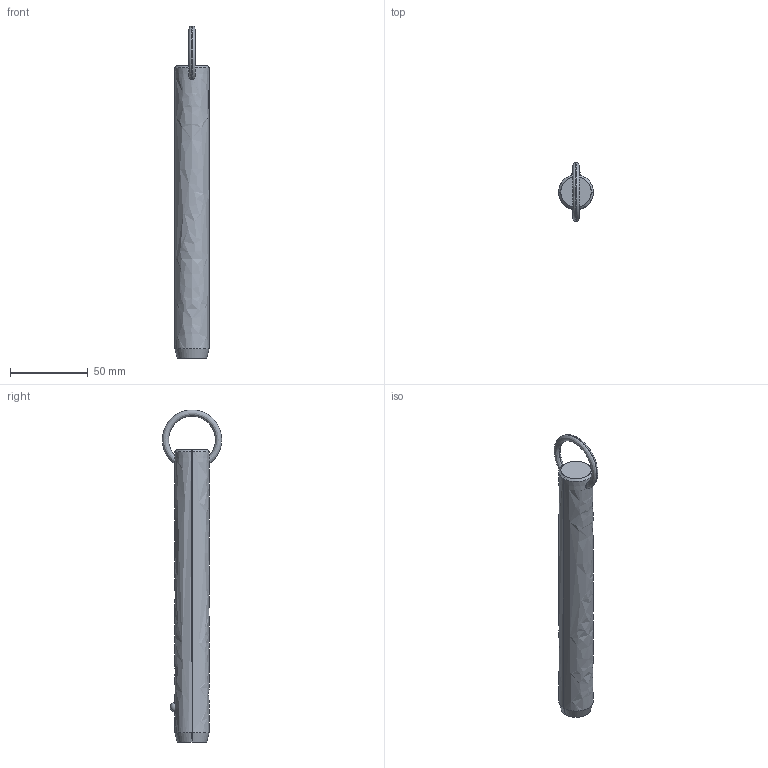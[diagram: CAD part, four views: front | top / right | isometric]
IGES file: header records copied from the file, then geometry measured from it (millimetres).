
Start section: SolidWorks IGES file using analytic representation for surfaces
Global section: file name: C:\Users\liam_\OneDrive\Documents\WORK\Work for WixRoyd\Job Files\J-00019 - Matt Davis CAD Checking\04. CAD Drawings\automotion20190605\P1250.2_v2\P1250.2_v2_20190729_IGES\P1250.087-590.igs; native system: SolidWorks 2017; preprocessor: SolidWorks 2017; author: liam_; date: 190730.002022; units: millimetre
Bounding box: 22.2 x 38.08 x 213.4 mm (x, y, z)
Surface area: 14755.5 mm2 (no closed solid volume)
Topology: 0 solids, 0 shells, 12 faces, 302 edges, 300 vertices
Faces by surface type: revolution 8, bspline 4
